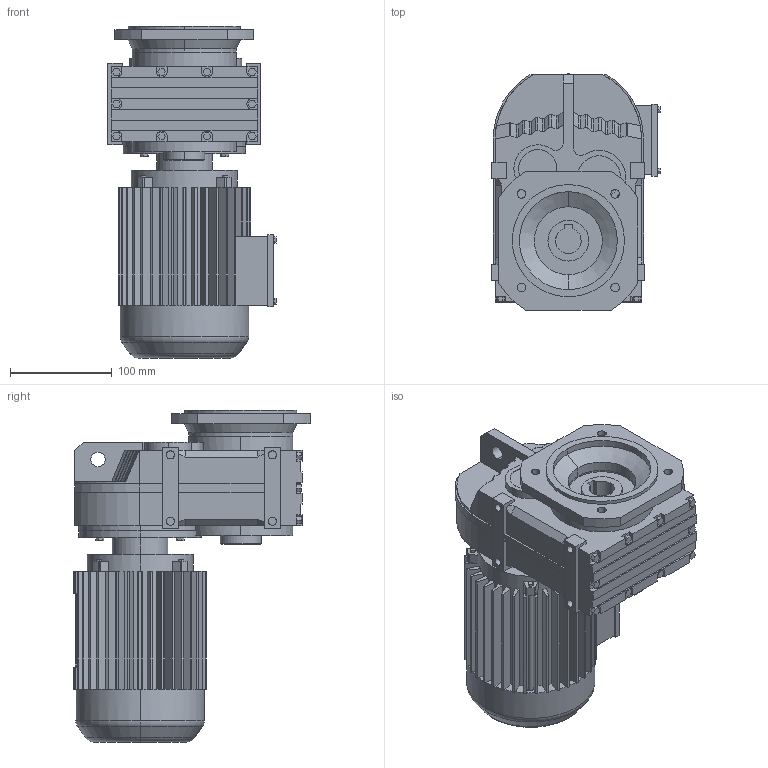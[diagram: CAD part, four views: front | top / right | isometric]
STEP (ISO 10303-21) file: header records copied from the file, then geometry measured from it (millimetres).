
FILE_DESCRIPTION(('Open CASCADE Model'),'2;1');
FILE_NAME('Open CASCADE Shape Model','2021-07-14T17:19:18',('Author'),( 'Open CASCADE'),'Open CASCADE STEP processor 6.3','Open CASCADE 6.3' ,'Unknown');
FILE_SCHEMA(('AUTOMOTIVE_DESIGN_CC2 { 1 2 10303 214 -1 1 5 4 }'));
Length unit declared in the file: millimetre
Products named in the file (5): 1_FAF27-Y63S; FA27‵157_27.step; 萇儂_120_Y63S.step; す瑩諾陑粣F_27.step; 楊擘F_27.step
Assembly tree (4 placements, depth 2):
  1_FAF27-Y63S
    FA27‵157_27.step
    萇儂_120_Y63S.step
    す瑩諾陑粣F_27.step
    楊擘F_27.step
Bounding box: 165 x 231.7 x 325.5 mm (x, y, z)
Volume: 4717970.8 mm3; surface area: 430046.4 mm2
Topology: 4 solids, 4 shells, 801 faces, 2117 edges, 1376 vertices
Faces by surface type: plane 570, cylinder 205, bspline 16, cone 6, torus 4
Entity records: 54082 total; most frequent: CARTESIAN_POINT 13439, DIRECTION 7109, ORIENTED_EDGE 4234, PCURVE 4234, DEFINITIONAL_REPRESENTATION 4234, LINE 3993, VECTOR 3993, EDGE_CURVE 2117
